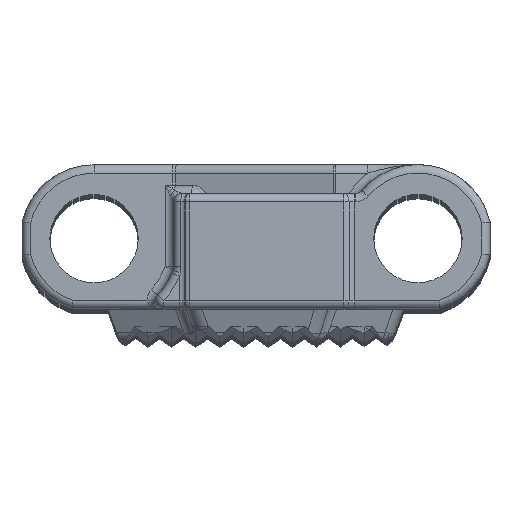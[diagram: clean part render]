
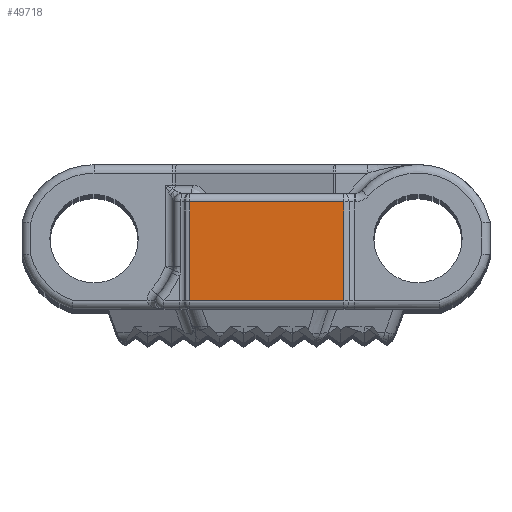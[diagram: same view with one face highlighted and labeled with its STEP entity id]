
A CAD part, top view. The second image highlights one B-rep face of the part: STEP entity #49718.
In plain terms, the highlighted planar face has unit normal (0, 0, 1).
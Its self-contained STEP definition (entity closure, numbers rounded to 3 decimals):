
#5530=DIRECTION('',(1.,0.,0.));
#5531=VECTOR('',#5530,9.067);
#5532=CARTESIAN_POINT('',(-3.892,-3.65,76.2));
#5533=LINE('',#5532,#5531);
#5534=DIRECTION('',(0.,-1.,0.));
#5535=VECTOR('',#5534,5.8);
#5536=CARTESIAN_POINT('',(-3.892,2.15,76.2));
#5537=LINE('',#5536,#5535);
#5538=DIRECTION('',(-1.,0.,0.));
#5539=VECTOR('',#5538,9.067);
#5540=CARTESIAN_POINT('',(5.175,2.15,76.2));
#5541=LINE('',#5540,#5539);
#5542=DIRECTION('',(0.,-1.,0.));
#5543=VECTOR('',#5542,5.8);
#5544=CARTESIAN_POINT('',(5.175,2.15,76.2));
#5545=LINE('',#5544,#5543);
#39289=CARTESIAN_POINT('',(5.175,-3.65,76.2));
#39290=VERTEX_POINT('',#39289);
#39291=CARTESIAN_POINT('',(-3.892,-3.65,76.2));
#39292=VERTEX_POINT('',#39291);
#39321=CARTESIAN_POINT('',(5.175,2.15,76.2));
#39322=VERTEX_POINT('',#39321);
#39327=CARTESIAN_POINT('',(-3.892,2.15,76.2));
#39328=VERTEX_POINT('',#39327);
#49705=CARTESIAN_POINT('',(-4.043,-4.15,76.2));
#49706=DIRECTION('',(0.,0.,1.));
#49707=DIRECTION('',(1.,0.,0.));
#49708=AXIS2_PLACEMENT_3D('',#49705,#49706,#49707);
#49709=PLANE('',#49708);
#49711=ORIENTED_EDGE('',*,*,#49710,.F.);
#49712=ORIENTED_EDGE('',*,*,#49674,.F.);
#49713=ORIENTED_EDGE('',*,*,#49696,.F.);
#49715=ORIENTED_EDGE('',*,*,#49714,.T.);
#49716=EDGE_LOOP('',(#49711,#49712,#49713,#49715));
#49717=FACE_OUTER_BOUND('',#49716,.F.);
#49674=EDGE_CURVE('',#39328,#39292,#5537,.T.);
#49696=EDGE_CURVE('',#39322,#39328,#5541,.T.);
#49710=EDGE_CURVE('',#39292,#39290,#5533,.T.);
#49714=EDGE_CURVE('',#39322,#39290,#5545,.T.);
#49718=ADVANCED_FACE('',(#49717),#49709,.T.);
